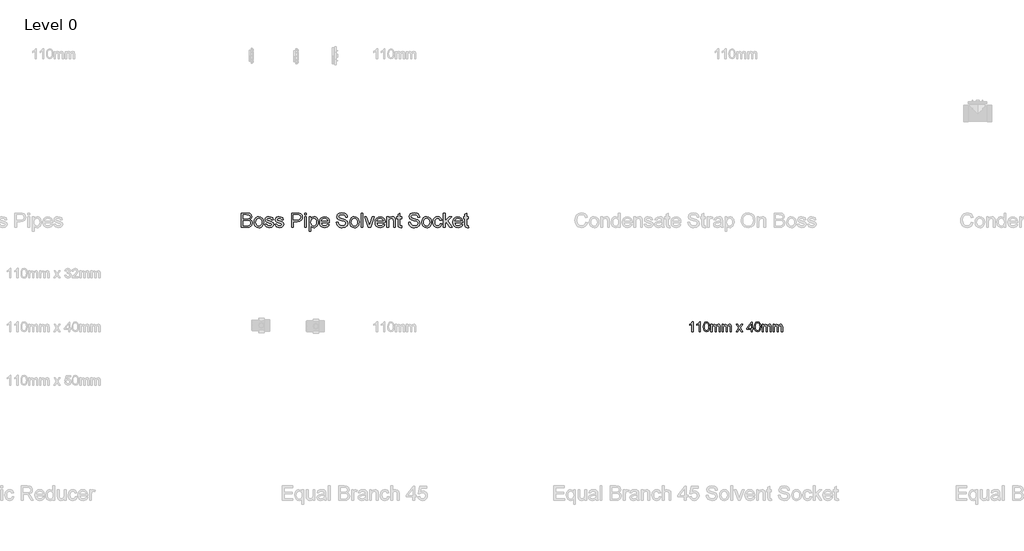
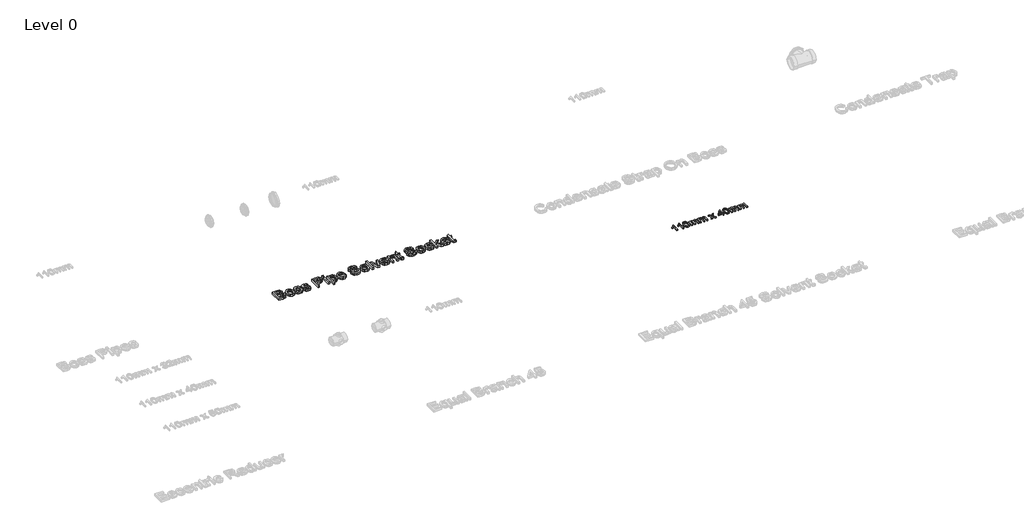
# One storey, part 18 of 28: 2 proxies.
"""IFC4 building model written with IfcOpenShell, lengths in millimetres."""

from ifc_helpers import new_model, si_unit, origin, origin_with_axes, place, context, project, spatial, polyline, outline, extrude, element, save

model = new_model("IFC4")

# Units and contexts
model_context = context("Model", 3, world=origin())
ifc_project = project(units=[si_unit("LENGTHUNIT", "METRE", prefix="MILLI")], contexts=[model_context])

# Site, building, storey
site = spatial("IfcSite", under=ifc_project)
building = spatial("IfcBuilding", under=site)
storey = spatial("IfcBuildingStorey", under=building, Name="Level 0", Elevation=0.0)

# Proxies
placement = place(None, origin())
element("IfcBuildingElementProxy", 1, Name="100mm Arial", ObjectType="100mm Arial", at=placement, inside=storey, context=model_context, shape_type="SweptSolid", body=[
    extrude(outline(polyline([(-10554.0370111, 5437.7167304), (-10566.3447034, 5437.7167304), (-10566.3447034, 5514.4474996), (-10578.0033572, 5506.1422111), (-10590.960088, 5499.9282688), (-10590.960088, 5511.5628842), (-10572.9192226, 5523.0773073), (-10561.9697034, 5536.1782688), (-10554.0370111, 5536.1782688), (-10554.0370111, 5437.7167304)])), origin_with_axes(), (0.0, 0.0, 1.0), 15.0),
    extrude(outline(polyline([(-10478.6523957, 5437.7167304), (-10490.960088, 5437.7167304), (-10490.960088, 5514.4474996), (-10502.6187418, 5506.1422111), (-10515.5754726, 5499.9282688), (-10515.5754726, 5511.5628842), (-10497.5346072, 5523.0773073), (-10486.585088, 5536.1782688), (-10478.6523957, 5536.1782688), (-10478.6523957, 5437.7167304)])), origin_with_axes(), (0.0, 0.0, 1.0), 15.0),
    extrude(outline(polyline([(-10449.4216264, 5486.1542304), (-10445.803838, 5514.4835573), (-10435.0586457, 5530.8176919), (-10417.1139341, 5536.1782688), (-10402.7389341, 5533.0051919), (-10392.8110495, 5523.8585573), (-10387.0418188, 5509.2912496), (-10384.8062418, 5486.1542304), (-10388.3879726, 5457.9450958), (-10399.0971072, 5441.5749035), (-10417.1139341, 5436.1782688), (-10429.9023957, 5438.5220188), (-10439.6139341, 5445.5532688), (-10446.9697034, 5462.2059131), (-10449.4216264, 5486.1542304)]), holes=[polyline([(-10437.1139341, 5486.1782688), (-10435.6716264, 5466.8182929), (-10431.3447034, 5455.613365), (-10424.9023957, 5450.2678121), (-10417.1139341, 5448.4859611), (-10409.3254726, 5450.2738217), (-10402.8831649, 5455.6374035), (-10398.5562418, 5466.848341), (-10397.1139341, 5486.1782688), (-10398.5081649, 5505.1025477), (-10402.6908572, 5516.394615), (-10409.1211457, 5522.0015861), (-10417.2581649, 5523.8705765), (-10424.9624918, 5522.2239419), (-10431.1523957, 5517.2840381), (-10435.6235495, 5505.2888458), (-10437.1139341, 5486.1782688)])]), origin_with_axes(), (0.0, 0.0, 1.0), 15.0),
    extrude(outline(polyline([(-10370.960088, 5437.7167304), (-10370.960088, 5510.0244227), (-10358.6523957, 5510.0244227), (-10358.6523957, 5498.1253842), (-10350.1908572, 5507.8729804), (-10338.147588, 5511.5628842), (-10325.8158572, 5507.800865), (-10319.0370111, 5497.2599996), (-10309.4336457, 5507.9871631), (-10297.3062418, 5511.5628842), (-10288.0544389, 5510.0755044), (-10281.2124918, 5505.613365), (-10276.9847274, 5498.0562736), (-10275.5754726, 5487.2840381), (-10275.5754726, 5437.7167304), (-10287.8831649, 5437.7167304), (-10287.8831649, 5481.9955765), (-10289.0249918, 5492.2720188), (-10293.1596072, 5497.332115), (-10300.1908572, 5499.2551919), (-10312.2942226, 5494.3273073), (-10317.1139341, 5478.5340381), (-10317.1139341, 5437.7167304), (-10329.4216264, 5437.7167304), (-10329.4216264, 5483.3657688), (-10332.2701841, 5495.2888458), (-10341.6091264, 5499.2551919), (-10350.7197034, 5496.6109611), (-10356.7773957, 5488.8705765), (-10358.6523957, 5474.1830765), (-10358.6523957, 5437.7167304), (-10370.960088, 5437.7167304)])), origin_with_axes(), (0.0, 0.0, 1.0), 15.0),
    extrude(outline(polyline([(-10257.1139341, 5437.7167304), (-10257.1139341, 5510.0244227), (-10244.8062418, 5510.0244227), (-10244.8062418, 5498.1253842), (-10236.3447034, 5507.8729804), (-10224.3014341, 5511.5628842), (-10211.9697034, 5507.800865), (-10205.1908572, 5497.2599996), (-10195.5874918, 5507.9871631), (-10183.460088, 5511.5628842), (-10174.2082851, 5510.0755044), (-10167.366338, 5505.613365), (-10163.1385736, 5498.0562736), (-10161.7293188, 5487.2840381), (-10161.7293188, 5437.7167304), (-10174.0370111, 5437.7167304), (-10174.0370111, 5481.9955765), (-10175.178838, 5492.2720188), (-10179.3134534, 5497.332115), (-10186.3447034, 5499.2551919), (-10198.4480688, 5494.3273073), (-10203.2677803, 5478.5340381), (-10203.2677803, 5437.7167304), (-10215.5754726, 5437.7167304), (-10215.5754726, 5483.3657688), (-10218.4240303, 5495.2888458), (-10227.7629726, 5499.2551919), (-10236.8735495, 5496.6109611), (-10242.9312418, 5488.8705765), (-10244.8062418, 5474.1830765), (-10244.8062418, 5437.7167304), (-10257.1139341, 5437.7167304)])), origin_with_axes(), (0.0, 0.0, 1.0), 15.0),
    extrude(outline(polyline([(-10112.4985495, 5437.7167304), (-10086.2004726, 5474.0628842), (-10110.960088, 5510.0244227), (-10096.1523957, 5510.0244227), (-10084.2052803, 5492.7167304), (-10078.6283572, 5484.5436535), (-10073.7966264, 5491.2263458), (-10060.1908572, 5510.0244227), (-10045.3831649, 5510.0244227), (-10071.3927803, 5474.0628842), (-10046.3447034, 5437.7167304), (-10061.1523957, 5437.7167304), (-10076.2245111, 5459.5676919), (-10078.9889341, 5463.5580765), (-10097.6908572, 5437.7167304), (-10112.4985495, 5437.7167304)])), origin_with_axes(), (0.0, 0.0, 1.0), 15.0),
    extrude(outline(polyline([(-9960.1908572, 5437.7167304), (-9960.1908572, 5460.7936535), (-10004.8062418, 5460.7936535), (-10004.8062418, 5473.1013458), (-9957.1139341, 5534.6398073), (-9947.8831649, 5534.6398073), (-9947.8831649, 5473.1013458), (-9935.5754726, 5473.1013458), (-9935.5754726, 5460.7936535), (-9947.8831649, 5460.7936535), (-9947.8831649, 5437.7167304), (-9960.1908572, 5437.7167304)]), holes=[polyline([(-9960.1908572, 5473.1013458), (-9960.1908572, 5511.1301919), (-9989.6620111, 5473.1013458), (-9960.1908572, 5473.1013458)])]), origin_with_axes(), (0.0, 0.0, 1.0), 15.0),
    extrude(outline(polyline([(-9924.8062418, 5486.1542304), (-9921.1884534, 5514.4835573), (-9910.4432611, 5530.8176919), (-9892.4985495, 5536.1782688), (-9878.1235495, 5533.0051919), (-9868.1956649, 5523.8585573), (-9862.4264341, 5509.2912496), (-9860.1908572, 5486.1542304), (-9863.772588, 5457.9450958), (-9874.4817226, 5441.5749035), (-9892.4985495, 5436.1782688), (-9905.2870111, 5438.5220188), (-9914.9985495, 5445.5532688), (-9922.3543188, 5462.2059131), (-9924.8062418, 5486.1542304)]), holes=[polyline([(-9912.4985495, 5486.1782688), (-9911.0562418, 5466.8182929), (-9906.7293188, 5455.613365), (-9900.2870111, 5450.2678121), (-9892.4985495, 5448.4859611), (-9884.710088, 5450.2738217), (-9878.2677803, 5455.6374035), (-9873.9408572, 5466.848341), (-9872.4985495, 5486.1782688), (-9873.8927803, 5505.1025477), (-9878.0754726, 5516.394615), (-9884.5057611, 5522.0015861), (-9892.6427803, 5523.8705765), (-9900.3471072, 5522.2239419), (-9906.5370111, 5517.2840381), (-9911.0081649, 5505.2888458), (-9912.4985495, 5486.1782688)])]), origin_with_axes(), (0.0, 0.0, 1.0), 15.0),
    extrude(outline(polyline([(-9846.3447034, 5437.7167304), (-9846.3447034, 5510.0244227), (-9834.0370111, 5510.0244227), (-9834.0370111, 5498.1253842), (-9825.5754726, 5507.8729804), (-9813.5322034, 5511.5628842), (-9801.2004726, 5507.800865), (-9794.4216264, 5497.2599996), (-9784.8182611, 5507.9871631), (-9772.6908572, 5511.5628842), (-9763.4390543, 5510.0755044), (-9756.5971072, 5505.613365), (-9752.3693428, 5498.0562736), (-9750.960088, 5487.2840381), (-9750.960088, 5437.7167304), (-9763.2677803, 5437.7167304), (-9763.2677803, 5481.9955765), (-9764.4096072, 5492.2720188), (-9768.5442226, 5497.332115), (-9775.5754726, 5499.2551919), (-9787.678838, 5494.3273073), (-9792.4985495, 5478.5340381), (-9792.4985495, 5437.7167304), (-9804.8062418, 5437.7167304), (-9804.8062418, 5483.3657688), (-9807.6547995, 5495.2888458), (-9816.9937418, 5499.2551919), (-9826.1043188, 5496.6109611), (-9832.1620111, 5488.8705765), (-9834.0370111, 5474.1830765), (-9834.0370111, 5437.7167304), (-9846.3447034, 5437.7167304)])), origin_with_axes(), (0.0, 0.0, 1.0), 15.0),
    extrude(outline(polyline([(-9732.4985495, 5437.7167304), (-9732.4985495, 5510.0244227), (-9720.1908572, 5510.0244227), (-9720.1908572, 5498.1253842), (-9711.7293188, 5507.8729804), (-9699.6860495, 5511.5628842), (-9687.3543188, 5507.800865), (-9680.5754726, 5497.2599996), (-9670.9721072, 5507.9871631), (-9658.8447034, 5511.5628842), (-9649.5929005, 5510.0755044), (-9642.7509534, 5505.613365), (-9638.5231889, 5498.0562736), (-9637.1139341, 5487.2840381), (-9637.1139341, 5437.7167304), (-9649.4216264, 5437.7167304), (-9649.4216264, 5481.9955765), (-9650.5634534, 5492.2720188), (-9654.6980688, 5497.332115), (-9661.7293188, 5499.2551919), (-9673.8326841, 5494.3273073), (-9678.6523957, 5478.5340381), (-9678.6523957, 5437.7167304), (-9690.960088, 5437.7167304), (-9690.960088, 5483.3657688), (-9693.8086457, 5495.2888458), (-9703.147588, 5499.2551919), (-9712.2581649, 5496.6109611), (-9718.3158572, 5488.8705765), (-9720.1908572, 5474.1830765), (-9720.1908572, 5437.7167304), (-9732.4985495, 5437.7167304)])), origin_with_axes(), (0.0, 0.0, 1.0), 15.0),
])
element("IfcBuildingElementProxy", 2, Name="150mm Arial", ObjectType="150mm Arial", at=placement, inside=storey, context=model_context, shape_type="SweptSolid", body=[
    extrude(outline(polyline([(-15187.5279897, 6505.2145219), (-15187.5279897, 6652.9068296), (-15131.1698166, 6652.9068296), (-15103.5676531, 6648.5618777), (-15094.2918118, 6643.049558), (-15087.2695762, 6635.2025027), (-15081.3741435, 6616.3082719), (-15086.3320762, 6599.0546661), (-15101.3140473, 6585.9837527), (-15090.8528094, 6580.5210123), (-15083.1229416, 6572.2097142), (-15078.3498046, 6561.5997383), (-15076.7587589, 6549.2409642), (-15081.1037108, 6529.3912046), (-15091.866932, 6515.2565892), (-15107.9306339, 6507.7565892), (-15131.6025089, 6505.2145219), (-15187.5279897, 6505.2145219)]), holes=[polyline([(-15169.0664512, 6523.6760604), (-15131.2058743, 6523.6760604), (-15117.5039512, 6524.3972142), (-15105.9114031, 6528.4176469), (-15098.2311147, 6536.6207719), (-15095.2202973, 6549.0606758), (-15098.7539512, 6563.4116373), (-15110.2022685, 6571.9753392), (-15133.0087589, 6574.4452911), (-15169.0664512, 6574.4452911), (-15169.0664512, 6523.6760604)]), polyline([(-15169.0664512, 6592.9068296), (-15135.3525089, 6592.9068296), (-15115.6650089, 6594.4933681), (-15103.820057, 6601.3263008), (-15099.835682, 6613.3515411), (-15103.5496243, 6625.3948104), (-15114.1866435, 6632.5162046), (-15137.912605, 6634.4452911), (-15169.0664512, 6634.4452911), (-15169.0664512, 6592.9068296)])]), origin_with_axes(), (0.0, 0.0, 1.0), 25.0),
    extrude(outline(polyline([(-15058.2972204, 6559.4452911), (-15054.303831, 6585.5961325), (-15042.3236627, 6603.9765411), (-15027.52198, 6612.9819498), (-15009.7996243, 6615.9837527), (-14990.405093, 6612.3284041), (-14974.913807, 6601.3623585), (-14964.7590594, 6583.9510003), (-14961.3741435, 6560.9597142), (-14962.8705377, 6542.3088729), (-14967.3597204, 6528.1111565), (-14974.7109824, 6517.4786445), (-14984.7936147, 6509.5234161), (-14996.7692757, 6504.5609762), (-15009.7996243, 6502.9068296), (-15029.4285305, 6506.5486565), (-15044.9017877, 6517.4741373), (-15054.9483622, 6535.2505796), (-15058.2972204, 6559.4452911)]), holes=[polyline([(-15039.835682, 6559.4813488), (-15037.6992637, 6542.7731157), (-15031.2900089, 6530.86957), (-15021.6445762, 6523.7436686), (-15009.7996243, 6521.3683681), (-14998.0087589, 6523.7571902), (-14988.381355, 6530.9236565), (-14981.9721002, 6542.9849546), (-14979.835682, 6560.0582719), (-14981.9856219, 6576.2797262), (-14988.4354416, 6588.0210123), (-14998.0763671, 6595.1469137), (-15009.7996243, 6597.5222142), (-15021.6445762, 6595.1559282), (-15031.2900089, 6588.05707), (-15037.6992637, 6576.1805676), (-15039.835682, 6559.4813488)])]), origin_with_axes(), (0.0, 0.0, 1.0), 25.0),
    extrude(outline(polyline([(-14947.5279897, 6537.5222142), (-14929.0664512, 6539.8299065), (-14926.1547925, 6531.9332719), (-14920.5207781, 6526.1279835), (-14900.9414512, 6521.3683681), (-14882.1193358, 6525.7313488), (-14875.9895281, 6535.9717335), (-14882.1553935, 6544.2650027), (-14901.1577973, 6549.5294258), (-14928.9582781, 6558.5618777), (-14941.0916916, 6569.1087527), (-14945.2202973, 6584.0005796), (-14941.9029897, 6597.7565892), (-14932.8525089, 6608.2674065), (-14921.11573, 6613.7301469), (-14905.2323166, 6615.9837527), (-14882.7683743, 6612.3599546), (-14868.4895281, 6602.5522623), (-14862.1433743, 6585.9837527), (-14880.6049127, 6583.6760604), (-14887.5460185, 6593.8623585), (-14903.7900089, 6597.5222142), (-14921.4582781, 6594.0246181), (-14926.7587589, 6585.8755796), (-14924.5592397, 6580.5029835), (-14917.6722204, 6576.4284642), (-14901.7707781, 6572.4981758), (-14874.6734223, 6563.8082719), (-14862.0892877, 6553.9645219), (-14857.5279897, 6537.9188488), (-14862.882557, 6520.2505796), (-14878.3332781, 6507.43207), (-14901.193855, 6502.9068296), (-14919.8086387, 6505.08832), (-14933.3933743, 6511.6327911), (-14942.4618839, 6522.4681277), (-14947.5279897, 6537.5222142)])), origin_with_axes(), (0.0, 0.0, 1.0), 25.0),
    extrude(outline(polyline([(-14843.6818358, 6537.5222142), (-14825.2202973, 6539.8299065), (-14822.3086387, 6531.9332719), (-14816.6746243, 6526.1279835), (-14797.0952973, 6521.3683681), (-14778.273182, 6525.7313488), (-14772.1433743, 6535.9717335), (-14778.3092397, 6544.2650027), (-14797.3116435, 6549.5294258), (-14825.1121243, 6558.5618777), (-14837.2455377, 6569.1087527), (-14841.3741435, 6584.0005796), (-14838.0568358, 6597.7565892), (-14829.006355, 6608.2674065), (-14817.2695762, 6613.7301469), (-14801.3861627, 6615.9837527), (-14778.9222204, 6612.3599546), (-14764.6433743, 6602.5522623), (-14758.2972204, 6585.9837527), (-14776.7587589, 6583.6760604), (-14783.6998647, 6593.8623585), (-14799.943855, 6597.5222142), (-14817.6121243, 6594.0246181), (-14822.912605, 6585.8755796), (-14820.7130858, 6580.5029835), (-14813.8260666, 6576.4284642), (-14797.9246243, 6572.4981758), (-14770.8272685, 6563.8082719), (-14758.2431339, 6553.9645219), (-14753.6818358, 6537.9188488), (-14759.0364031, 6520.2505796), (-14774.4871243, 6507.43207), (-14797.3477012, 6502.9068296), (-14815.9624848, 6505.08832), (-14829.5472204, 6511.6327911), (-14838.61573, 6522.4681277), (-14843.6818358, 6537.5222142)])), origin_with_axes(), (0.0, 0.0, 1.0), 25.0),
    extrude(outline(polyline([(-14672.912605, 6505.2145219), (-14672.912605, 6652.9068296), (-14618.1770281, 6652.9068296), (-14596.1097204, 6651.5005796), (-14578.1710185, 6644.5955315), (-14566.5424127, 6630.3166854), (-14562.1433743, 6610.1784642), (-14565.1136267, 6592.7716133), (-14574.0243839, 6578.2674065), (-14590.6875449, 6568.4777431), (-14616.9150089, 6565.2145219), (-14654.4510666, 6565.2145219), (-14654.4510666, 6505.2145219), (-14672.912605, 6505.2145219)]), holes=[polyline([(-14654.4510666, 6583.6760604), (-14615.8332781, 6583.6760604), (-14599.4630858, 6585.3707719), (-14588.6457781, 6590.4549065), (-14582.6151291, 6598.6129594), (-14580.6049127, 6609.5294258), (-14585.3464993, 6624.8178873), (-14597.804432, 6633.1832719), (-14616.2659704, 6634.4452911), (-14654.4510666, 6634.4452911), (-14654.4510666, 6583.6760604)])]), origin_with_axes(), (0.0, 0.0, 1.0), 25.0),
    extrude(outline(polyline([(-14539.0664512, 6634.4452911), (-14539.0664512, 6652.9068296), (-14520.6049127, 6652.9068296), (-14520.6049127, 6634.4452911), (-14539.0664512, 6634.4452911)])), origin_with_axes(), (0.0, 0.0, 1.0), 25.0),
    extrude(outline(polyline([(-14539.0664512, 6505.2145219), (-14539.0664512, 6613.6760604), (-14520.6049127, 6613.6760604), (-14520.6049127, 6505.2145219), (-14539.0664512, 6505.2145219)])), origin_with_axes(), (0.0, 0.0, 1.0), 25.0),
    extrude(outline(polyline([(-14492.912605, 6463.6760604), (-14492.912605, 6613.6760604), (-14474.4510666, 6613.6760604), (-14474.4510666, 6595.5750988), (-14461.6866435, 6610.8815892), (-14444.4510666, 6615.9837527), (-14431.9660906, 6614.1988969), (-14421.0496243, 6608.8443296), (-14412.1614031, 6600.24457), (-14405.7611627, 6588.7241373), (-14400.6049127, 6560.2746181), (-14402.0607421, 6544.4858561), (-14406.42823, 6530.3647623), (-14413.5676531, 6518.6279835), (-14423.3392877, 6509.9921661), (-14434.7199969, 6504.6781637), (-14446.6866435, 6502.9068296), (-14462.7503454, 6507.6484161), (-14474.4510666, 6519.6375988), (-14474.4510666, 6463.6760604), (-14492.912605, 6463.6760604)]), holes=[polyline([(-14474.4510666, 6558.5799065), (-14472.4543719, 6542.0294258), (-14466.4642877, 6530.4549065), (-14457.6256459, 6523.6400027), (-14447.0832781, 6521.3683681), (-14436.3696363, 6523.7211325), (-14427.3056339, 6530.7794258), (-14421.1262469, 6542.7776229), (-14419.0664512, 6559.9500988), (-14421.0766675, 6576.4104354), (-14427.1073166, 6588.1472142), (-14435.9324368, 6595.1784642), (-14446.3260666, 6597.5222142), (-14456.7602613, 6595.0297262), (-14465.9234223, 6587.5522623), (-14472.3191555, 6575.3241974), (-14474.4510666, 6558.5799065)])]), origin_with_axes(), (0.0, 0.0, 1.0), 25.0),
    extrude(outline(polyline([(-14303.898182, 6537.5222142), (-14285.7972204, 6535.2145219), (-14292.3191555, 6521.5756998), (-14302.726307, 6511.3803873), (-14316.7842997, 6505.025219), (-14334.2587589, 6502.9068296), (-14355.9204175, 6506.5621782), (-14372.5880858, 6517.5282238), (-14383.2160906, 6535.0928272), (-14386.7587589, 6558.5438488), (-14383.1800329, 6582.7836325), (-14372.443855, 6600.9116373), (-14356.0015473, 6612.2157238), (-14335.304432, 6615.9837527), (-14315.2518478, 6612.2247383), (-14299.2287108, 6600.947695), (-14288.7224007, 6582.8557479), (-14285.2202973, 6558.6520219), (-14285.3284704, 6553.6760604), (-14368.2972204, 6553.6760604), (-14365.1016074, 6539.8569498), (-14357.67823, 6529.697695), (-14346.9645882, 6523.4506998), (-14333.898182, 6521.3683681), (-14315.7972204, 6525.2265411), (-14303.898182, 6537.5222142)]), holes=[polyline([(-14368.2972204, 6572.1375988), (-14303.6818358, 6572.1375988), (-14306.178831, 6581.8912046), (-14311.0736627, 6588.8683681), (-14321.8368839, 6595.3587527), (-14335.3765473, 6597.5222142), (-14347.8209584, 6595.7959522), (-14358.1109223, 6590.6171661), (-14365.2638671, 6582.5447503), (-14368.2972204, 6572.1375988)])]), origin_with_axes(), (0.0, 0.0, 1.0), 25.0),
    extrude(outline(polyline([(-14213.6818358, 6555.9837527), (-14195.2202973, 6555.9837527), (-14189.2707781, 6537.5041854), (-14174.7395281, 6525.8214931), (-14152.600105, 6521.3683681), (-14133.3092397, 6524.7397623), (-14120.851307, 6534.0065892), (-14116.7587589, 6546.3924065), (-14119.8236627, 6557.9128392), (-14132.3717397, 6566.2962527), (-14159.2527493, 6573.3455315), (-14188.1890473, 6582.4500988), (-14203.8921723, 6596.1880796), (-14209.0664512, 6614.541445), (-14207.4663911, 6625.3542455), (-14202.6662108, 6635.4368777), (-14194.7921122, 6643.9825508), (-14183.9702973, 6650.1844738), (-14156.6025089, 6655.2145219), (-14127.3957781, 6649.9500988), (-14116.1998647, 6643.4506998), (-14107.9246243, 6634.4813488), (-14102.6872445, 6623.6009402), (-14100.6049127, 6611.3683681), (-14119.0664512, 6611.3683681), (-14122.4558743, 6622.3839931), (-14129.523182, 6630.3347142), (-14140.5658502, 6635.1484161), (-14155.881355, 6636.7529835), (-14171.5574368, 6635.166445), (-14182.3116435, 6630.4068296), (-14188.5315954, 6623.4026229), (-14190.6049127, 6615.0823104), (-14189.1355618, 6607.9879594), (-14184.7275089, 6602.2818296), (-14154.5832781, 6591.9693296), (-14121.9150089, 6582.7025027), (-14111.3906699, 6576.0047863), (-14104.0484223, 6567.7385604), (-14098.2972204, 6546.8611565), (-14099.9513671, 6535.4804474), (-14104.913807, 6524.77582), (-14112.9817156, 6515.5630796), (-14123.9522685, 6508.6580315), (-14151.8789512, 6502.9068296), (-14169.9663911, 6504.4573104), (-14184.8537108, 6509.1087527), (-14196.7121844, 6516.8791854), (-14205.7130858, 6527.7866373), (-14211.491331, 6541.0738969), (-14213.6818358, 6555.9837527)])), origin_with_axes(), (0.0, 0.0, 1.0), 25.0),
    extrude(outline(polyline([(-14077.5279897, 6559.4452911), (-14073.5346002, 6585.5961325), (-14061.554432, 6603.9765411), (-14046.7527493, 6612.9819498), (-14029.0303935, 6615.9837527), (-14009.6358622, 6612.3284041), (-13994.1445762, 6601.3623585), (-13983.9898286, 6583.9510003), (-13980.6049127, 6560.9597142), (-13982.101307, 6542.3088729), (-13986.5904897, 6528.1111565), (-13993.9417517, 6517.4786445), (-14004.0243839, 6509.5234161), (-14016.0000449, 6504.5609762), (-14029.0303935, 6502.9068296), (-14048.6592997, 6506.5486565), (-14064.132557, 6517.4741373), (-14074.1791315, 6535.2505796), (-14077.5279897, 6559.4452911)]), holes=[polyline([(-14059.0664512, 6559.4813488), (-14056.9300329, 6542.7731157), (-14050.5207781, 6530.86957), (-14040.8753454, 6523.7436686), (-14029.0303935, 6521.3683681), (-14017.2395281, 6523.7571902), (-14007.6121243, 6530.9236565), (-14001.2028695, 6542.9849546), (-13999.0664512, 6560.0582719), (-14001.2163911, 6576.2797262), (-14007.6662108, 6588.0210123), (-14017.3071363, 6595.1469137), (-14029.0303935, 6597.5222142), (-14040.8753454, 6595.1559282), (-14050.5207781, 6588.05707), (-14056.9300329, 6576.1805676), (-14059.0664512, 6559.4813488)])]), origin_with_axes(), (0.0, 0.0, 1.0), 25.0),
    extrude(outline(polyline([(-13959.835682, 6505.2145219), (-13959.835682, 6652.9068296), (-13941.3741435, 6652.9068296), (-13941.3741435, 6505.2145219), (-13959.835682, 6505.2145219)])), origin_with_axes(), (0.0, 0.0, 1.0), 25.0),
    extrude(outline(polyline([(-13887.0712589, 6505.2145219), (-13925.2202973, 6613.6760604), (-13905.6770281, 6613.6760604), (-13882.5640473, 6548.7000988), (-13875.6049127, 6526.8491373), (-13868.7900089, 6547.4741373), (-13845.5327973, 6613.6760604), (-13825.9895281, 6613.6760604), (-13863.6698166, 6505.2145219), (-13887.0712589, 6505.2145219)])), origin_with_axes(), (0.0, 0.0, 1.0), 25.0),
    extrude(outline(polyline([(-13733.898182, 6537.5222142), (-13715.7972204, 6535.2145219), (-13722.3191555, 6521.5756998), (-13732.726307, 6511.3803873), (-13746.7842997, 6505.025219), (-13764.2587589, 6502.9068296), (-13785.9204175, 6506.5621782), (-13802.5880858, 6517.5282238), (-13813.2160906, 6535.0928272), (-13816.7587589, 6558.5438488), (-13813.1800329, 6582.7836325), (-13802.443855, 6600.9116373), (-13786.0015473, 6612.2157238), (-13765.304432, 6615.9837527), (-13745.2518478, 6612.2247383), (-13729.2287108, 6600.947695), (-13718.7224007, 6582.8557479), (-13715.2202973, 6558.6520219), (-13715.3284704, 6553.6760604), (-13798.2972204, 6553.6760604), (-13795.1016074, 6539.8569498), (-13787.67823, 6529.697695), (-13776.9645882, 6523.4506998), (-13763.898182, 6521.3683681), (-13745.7972204, 6525.2265411), (-13733.898182, 6537.5222142)]), holes=[polyline([(-13798.2972204, 6572.1375988), (-13733.6818358, 6572.1375988), (-13736.178831, 6581.8912046), (-13741.0736627, 6588.8683681), (-13751.8368839, 6595.3587527), (-13765.3765473, 6597.5222142), (-13777.8209584, 6595.7959522), (-13788.1109223, 6590.6171661), (-13795.2638671, 6582.5447503), (-13798.2972204, 6572.1375988)])]), origin_with_axes(), (0.0, 0.0, 1.0), 25.0),
    extrude(outline(polyline([(-13696.7587589, 6505.2145219), (-13696.7587589, 6613.6760604), (-13678.2972204, 6613.6760604), (-13678.2972204, 6598.5318296), (-13664.1806339, 6611.6207719), (-13644.9077973, 6615.9837527), (-13627.4739031, 6612.4681277), (-13615.5748647, 6603.2373585), (-13610.0400089, 6589.6616373), (-13609.0664512, 6571.8130796), (-13609.0664512, 6505.2145219), (-13627.5279897, 6505.2145219), (-13627.5279897, 6569.3250988), (-13629.6553935, 6585.6592335), (-13637.1734223, 6594.2950508), (-13649.8477012, 6597.5222142), (-13660.6605017, 6595.7103152), (-13669.8777493, 6590.2746181), (-13676.1923526, 6579.7728152), (-13678.2972204, 6562.7625988), (-13678.2972204, 6505.2145219), (-13696.7587589, 6505.2145219)])), origin_with_axes(), (0.0, 0.0, 1.0), 25.0),
    extrude(outline(polyline([(-13544.4510666, 6520.6111565), (-13542.1433743, 6504.6736565), (-13555.9534704, 6502.9068296), (-13571.4222204, 6505.9717335), (-13579.1385666, 6514.0125988), (-13581.3741435, 6534.9621181), (-13581.3741435, 6595.2145219), (-13595.2202973, 6595.2145219), (-13595.2202973, 6613.6760604), (-13581.3741435, 6613.6760604), (-13581.3741435, 6640.0342335), (-13562.912605, 6650.8875988), (-13562.912605, 6613.6760604), (-13544.4510666, 6613.6760604), (-13544.4510666, 6595.2145219), (-13562.912605, 6595.2145219), (-13562.912605, 6535.5029835), (-13561.9390473, 6525.9837527), (-13558.7839993, 6522.6123585), (-13552.491932, 6521.3683681), (-13544.4510666, 6520.6111565)])), origin_with_axes(), (0.0, 0.0, 1.0), 25.0),
    extrude(outline(polyline([(-13472.912605, 6555.9837527), (-13454.4510666, 6555.9837527), (-13448.5015473, 6537.5041854), (-13433.9702973, 6525.8214931), (-13411.8308743, 6521.3683681), (-13392.5400089, 6524.7397623), (-13380.0820762, 6534.0065892), (-13375.9895281, 6546.3924065), (-13379.054432, 6557.9128392), (-13391.6025089, 6566.2962527), (-13418.4835185, 6573.3455315), (-13447.4198166, 6582.4500988), (-13463.1229416, 6596.1880796), (-13468.2972204, 6614.541445), (-13466.6971603, 6625.3542455), (-13461.89698, 6635.4368777), (-13454.0228815, 6643.9825508), (-13443.2010666, 6650.1844738), (-13415.8332781, 6655.2145219), (-13386.6265473, 6649.9500988), (-13375.4306339, 6643.4506998), (-13367.1553935, 6634.4813488), (-13361.9180137, 6623.6009402), (-13359.835682, 6611.3683681), (-13378.2972204, 6611.3683681), (-13381.6866435, 6622.3839931), (-13388.7539512, 6630.3347142), (-13399.7966195, 6635.1484161), (-13415.1121243, 6636.7529835), (-13430.788206, 6635.166445), (-13441.5424127, 6630.4068296), (-13447.7623647, 6623.4026229), (-13449.835682, 6615.0823104), (-13448.366331, 6607.9879594), (-13443.9582781, 6602.2818296), (-13413.8140473, 6591.9693296), (-13381.1457781, 6582.7025027), (-13370.6214392, 6576.0047863), (-13363.2791916, 6567.7385604), (-13357.5279897, 6546.8611565), (-13359.1821363, 6535.4804474), (-13364.1445762, 6524.77582), (-13372.2124848, 6515.5630796), (-13383.1830377, 6508.6580315), (-13411.1097204, 6502.9068296), (-13429.1971603, 6504.4573104), (-13444.08448, 6509.1087527), (-13455.9429536, 6516.8791854), (-13464.943855, 6527.7866373), (-13470.7221002, 6541.0738969), (-13472.912605, 6555.9837527)])), origin_with_axes(), (0.0, 0.0, 1.0), 25.0),
    extrude(outline(polyline([(-13336.7587589, 6559.4452911), (-13332.7653695, 6585.5961325), (-13320.7852012, 6603.9765411), (-13305.9835185, 6612.9819498), (-13288.2611627, 6615.9837527), (-13268.8666315, 6612.3284041), (-13253.3753454, 6601.3623585), (-13243.2205978, 6583.9510003), (-13239.835682, 6560.9597142), (-13241.3320762, 6542.3088729), (-13245.8212589, 6528.1111565), (-13253.1725209, 6517.4786445), (-13263.2551531, 6509.5234161), (-13275.2308142, 6504.5609762), (-13288.2611627, 6502.9068296), (-13307.890069, 6506.5486565), (-13323.3633262, 6517.4741373), (-13333.4099007, 6535.2505796), (-13336.7587589, 6559.4452911)]), holes=[polyline([(-13318.2972204, 6559.4813488), (-13316.1608022, 6542.7731157), (-13309.7515473, 6530.86957), (-13300.1061147, 6523.7436686), (-13288.2611627, 6521.3683681), (-13276.4702973, 6523.7571902), (-13266.8428935, 6530.9236565), (-13260.4336387, 6542.9849546), (-13258.2972204, 6560.0582719), (-13260.4471603, 6576.2797262), (-13266.89698, 6588.0210123), (-13276.5379055, 6595.1469137), (-13288.2611627, 6597.5222142), (-13300.1061147, 6595.1559282), (-13309.7515473, 6588.05707), (-13316.1608022, 6576.1805676), (-13318.2972204, 6559.4813488)])]), origin_with_axes(), (0.0, 0.0, 1.0), 25.0),
    extrude(outline(polyline([(-13149.835682, 6544.4452911), (-13131.3741435, 6542.1375988), (-13136.5213791, 6525.7178272), (-13146.193855, 6513.3094738), (-13159.4811147, 6505.5074907), (-13175.4727012, 6502.9068296), (-13195.1106219, 6506.5351349), (-13210.4666916, 6517.4200508), (-13220.3780497, 6535.0838128), (-13223.6818358, 6559.0486565), (-13218.038807, 6589.7157238), (-13210.9174127, 6601.2136205), (-13200.8392877, 6609.4212527), (-13188.7824969, 6614.3431277), (-13175.725105, 6615.9837527), (-13160.1256459, 6613.7301469), (-13147.6541916, 6606.9693296), (-13138.7073767, 6596.0618777), (-13133.6818358, 6581.3683681), (-13152.1433743, 6579.0606758), (-13160.7070762, 6592.8888008), (-13175.5808743, 6597.5222142), (-13187.5114632, 6595.2415652), (-13196.9811147, 6588.3996181), (-13203.1605017, 6576.6267815), (-13205.2202973, 6559.5534642), (-13203.2055738, 6542.2502791), (-13197.1614031, 6530.4368777), (-13187.8630257, 6523.6354955), (-13176.085682, 6521.3683681), (-13166.5258863, 6522.7836325), (-13158.6878454, 6527.0294258), (-13152.9862228, 6534.213921), (-13149.835682, 6544.4452911)])), origin_with_axes(), (0.0, 0.0, 1.0), 25.0),
    extrude(outline(polyline([(-13115.2202973, 6505.2145219), (-13115.2202973, 6652.9068296), (-13096.7587589, 6652.9068296), (-13096.7587589, 6573.5438488), (-13055.3645281, 6613.6760604), (-13029.835682, 6613.6760604), (-13071.7347204, 6573.0390411), (-13027.5279897, 6505.2145219), (-13049.0904897, 6505.2145219), (-13084.9678935, 6560.2025027), (-13096.7587589, 6548.7722142), (-13096.7587589, 6505.2145219), (-13115.2202973, 6505.2145219)])), origin_with_axes(), (0.0, 0.0, 1.0), 25.0),
    extrude(outline(polyline([(-12935.4366435, 6537.5222142), (-12917.335682, 6535.2145219), (-12923.8576171, 6521.5756998), (-12934.2647685, 6511.3803873), (-12948.3227613, 6505.025219), (-12965.7972204, 6502.9068296), (-12987.4588791, 6506.5621782), (-13004.1265473, 6517.5282238), (-13014.7545522, 6535.0928272), (-13018.2972204, 6558.5438488), (-13014.7184945, 6582.7836325), (-13003.9823166, 6600.9116373), (-12987.5400089, 6612.2157238), (-12966.8428935, 6615.9837527), (-12946.7903094, 6612.2247383), (-12930.7671723, 6600.947695), (-12920.2608622, 6582.8557479), (-12916.7587589, 6558.6520219), (-12916.866932, 6553.6760604), (-12999.835682, 6553.6760604), (-12996.640069, 6539.8569498), (-12989.2166916, 6529.697695), (-12978.5030497, 6523.4506998), (-12965.4366435, 6521.3683681), (-12947.335682, 6525.2265411), (-12935.4366435, 6537.5222142)]), holes=[polyline([(-12999.835682, 6572.1375988), (-12935.2202973, 6572.1375988), (-12937.7172925, 6581.8912046), (-12942.6121243, 6588.8683681), (-12953.3753454, 6595.3587527), (-12966.9150089, 6597.5222142), (-12979.3594199, 6595.7959522), (-12989.6493839, 6590.6171661), (-12996.8023286, 6582.5447503), (-12999.835682, 6572.1375988)])]), origin_with_axes(), (0.0, 0.0, 1.0), 25.0),
    extrude(outline(polyline([(-12859.0664512, 6520.6111565), (-12856.7587589, 6504.6736565), (-12870.568855, 6502.9068296), (-12886.037605, 6505.9717335), (-12893.7539512, 6514.0125988), (-12895.9895281, 6534.9621181), (-12895.9895281, 6595.2145219), (-12909.835682, 6595.2145219), (-12909.835682, 6613.6760604), (-12895.9895281, 6613.6760604), (-12895.9895281, 6640.0342335), (-12877.5279897, 6650.8875988), (-12877.5279897, 6613.6760604), (-12859.0664512, 6613.6760604), (-12859.0664512, 6595.2145219), (-12877.5279897, 6595.2145219), (-12877.5279897, 6535.5029835), (-12876.554432, 6525.9837527), (-12873.3993839, 6522.6123585), (-12867.1073166, 6521.3683681), (-12859.0664512, 6520.6111565)])), origin_with_axes(), (0.0, 0.0, 1.0), 25.0),
])

save(model, "model.ifc")
